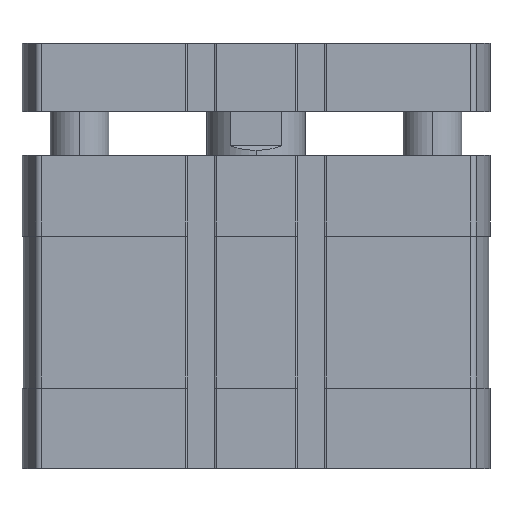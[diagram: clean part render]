
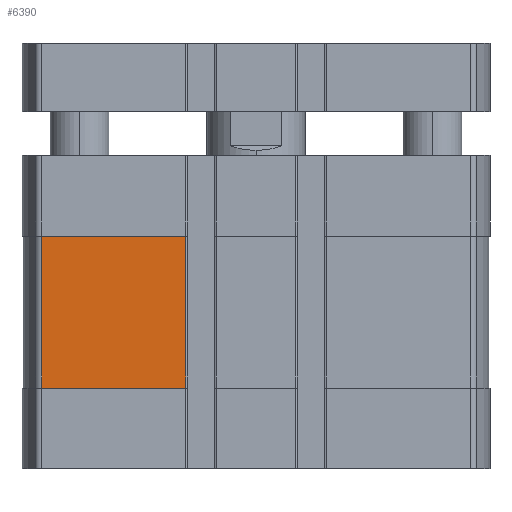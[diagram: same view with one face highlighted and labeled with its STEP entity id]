
A CAD part, front view. The second image highlights one B-rep face of the part: STEP entity #6390.
In plain terms, the highlighted planar face has unit normal (0, -1, 0) as drawn and (-1, 0, 0) by its records, which use the part's own axes.
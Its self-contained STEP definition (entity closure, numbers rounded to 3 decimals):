
#495 = ORIENTED_EDGE ( 'NONE', *, *, #11771, .T. ) ;
#530 = CARTESIAN_POINT ( 'NONE',  ( -47.5, 14.3, -16.5 ) ) ;
#1398 = CARTESIAN_POINT ( 'NONE',  ( -47.5, 43.743, -47.5 ) ) ;
#2862 = VECTOR ( 'NONE', #22130, 1000. ) ;
#3320 = DIRECTION ( 'NONE',  ( 0., 0., 1. ) ) ;
#3767 = FACE_OUTER_BOUND ( 'NONE', #18730, .T. ) ;
#4019 = AXIS2_PLACEMENT_3D ( 'NONE', #1398, #14456, #3320 ) ;
#4086 = VECTOR ( 'NONE', #22293, 1000. ) ;
#4685 = LINE ( 'NONE', #22372, #4086 ) ;
#4750 = VECTOR ( 'NONE', #23853, 1000. ) ;
#5622 = ORIENTED_EDGE ( 'NONE', *, *, #10566, .T. ) ;
#6390 = ADVANCED_FACE ( 'NONE', ( #3767 ), #16240, .T. ) ;
#9266 = CARTESIAN_POINT ( 'NONE',  ( -47.5, 43.743, -47.5 ) ) ;
#9287 = CARTESIAN_POINT ( 'NONE',  ( -47.5, 43.743, -47.5 ) ) ;
#9453 = VERTEX_POINT ( 'NONE', #13819 ) ;
#10566 = EDGE_CURVE ( 'NONE', #20371, #14954, #4685, .T. ) ;
#11771 = EDGE_CURVE ( 'NONE', #14954, #13957, #12788, .T. ) ;
#12788 = LINE ( 'NONE', #9287, #2862 ) ;
#12888 = CARTESIAN_POINT ( 'NONE',  ( -47.5, 0., -47.5 ) ) ;
#13819 = CARTESIAN_POINT ( 'NONE',  ( -47.5, 14.3, -47.5 ) ) ;
#13913 = EDGE_CURVE ( 'NONE', #9453, #13957, #23770, .T. ) ;
#13957 = VERTEX_POINT ( 'NONE', #9266 ) ;
#13971 = CARTESIAN_POINT ( 'NONE',  ( -47.5, 43.743, -16.5 ) ) ;
#14456 = DIRECTION ( 'NONE',  ( -1., 0., 0. ) ) ;
#14628 = CARTESIAN_POINT ( 'NONE',  ( -47.5, 14.3, -47.5 ) ) ;
#14954 = VERTEX_POINT ( 'NONE', #13971 ) ;
#15054 = VECTOR ( 'NONE', #16660, 1000. ) ;
#15781 = ORIENTED_EDGE ( 'NONE', *, *, #13913, .F. ) ;
#16240 = PLANE ( 'NONE',  #4019 ) ;
#16660 = DIRECTION ( 'NONE',  ( 0., 0., 1. ) ) ;
#17516 = EDGE_CURVE ( 'NONE', #9453, #20371, #19906, .T. ) ;
#18730 = EDGE_LOOP ( 'NONE', ( #15781, #23252, #5622, #495 ) ) ;
#19906 = LINE ( 'NONE', #14628, #15054 ) ;
#20371 = VERTEX_POINT ( 'NONE', #530 ) ;
#22130 = DIRECTION ( 'NONE',  ( 0., 0., -1. ) ) ;
#22293 = DIRECTION ( 'NONE',  ( 0., 1., 0. ) ) ;
#22372 = CARTESIAN_POINT ( 'NONE',  ( -47.5, 43.743, -16.5 ) ) ;
#23252 = ORIENTED_EDGE ( 'NONE', *, *, #17516, .T. ) ;
#23770 = LINE ( 'NONE', #12888, #4750 ) ;
#23853 = DIRECTION ( 'NONE',  ( 0., 1., 0. ) ) ;
